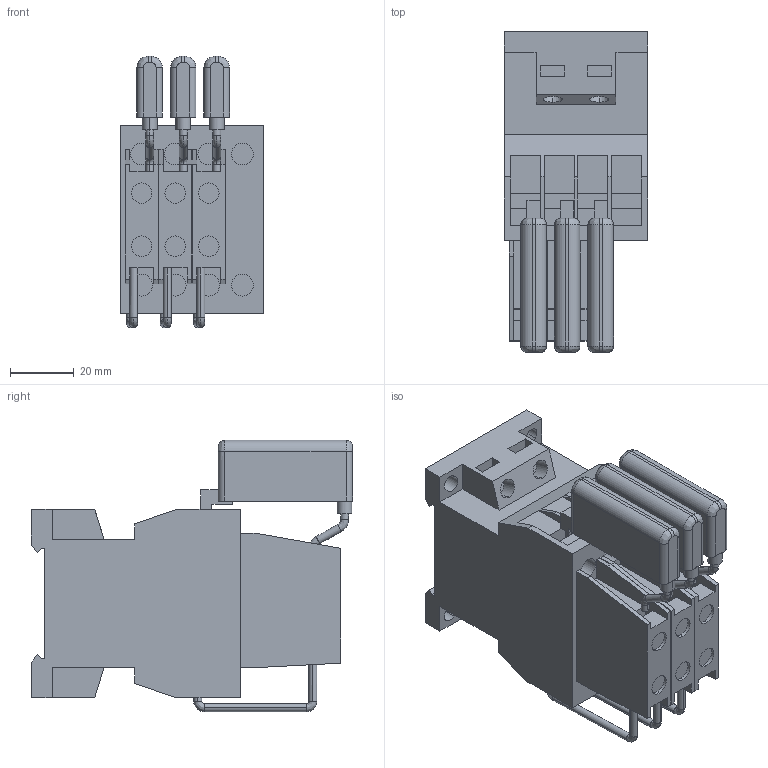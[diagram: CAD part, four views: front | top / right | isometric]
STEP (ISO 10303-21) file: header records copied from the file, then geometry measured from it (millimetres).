
FILE_DESCRIPTION (( 'STEP AP203' ), '1' );
FILE_NAME ('K3-18K.STEP', '2014-03-10T13:49:22', ( '' ), ( '' ), 'SwSTEP 2.0', 'SolidWorks 2014', '' );
FILE_SCHEMA (( 'CONFIG_CONTROL_DESIGN' ));
Length unit declared in the file: millimetre
Products named in the file (11): Imported_2; Imported_9; Imported_7; Imported_6; Imported_8; Imported_10; Imported_3; Imported_5; Imported_4; K3-18K; Imported
Assembly tree (10 placements, depth 2):
  K3-18K
    Imported
    Imported_2
    Imported_3
    Imported_4
    Imported_5
    Imported_6
    Imported_7
    Imported_8
    Imported_9
    Imported_10
Bounding box: 45 x 100.45 x 84.9 mm (x, y, z)
Volume: 187886.8 mm3; surface area: 49712.4 mm2
Topology: 10 solids, 10 shells, 441 faces, 1166 edges, 764 vertices
Faces by surface type: plane 289, cylinder 116, bspline 36
Entity records: 15260 total; most frequent: CARTESIAN_POINT 3002, ORIENTED_EDGE 2332, DIRECTION 2284, EDGE_CURVE 1166, LINE 860, VECTOR 860, VERTEX_POINT 764, AXIS2_PLACEMENT_3D 712
